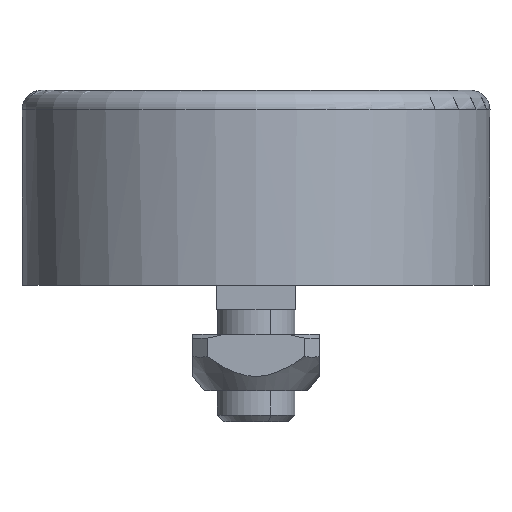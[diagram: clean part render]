
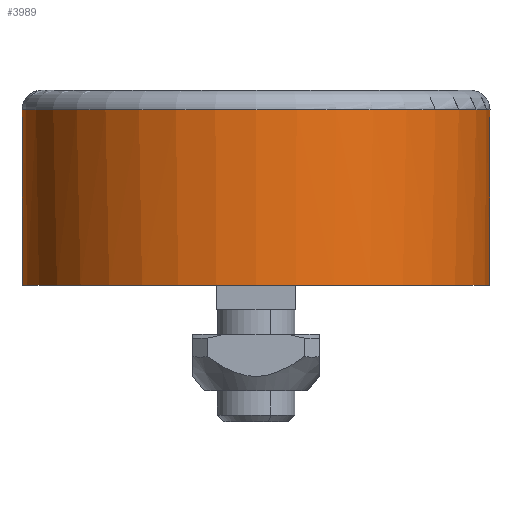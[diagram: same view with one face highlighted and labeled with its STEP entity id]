
A CAD part, left-side view. The second image highlights one B-rep face of the part: STEP entity #3989.
In plain terms, the highlighted cylindrical face has radius 24 mm (diameter 48 mm), a partial arc.
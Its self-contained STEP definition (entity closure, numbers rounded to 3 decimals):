
#55 = EDGE_CURVE ( 'NONE', #685, #5704, #1735, .T. ) ;
#518 = CARTESIAN_POINT ( 'NONE',  ( 32.95, 22.269, -2.013 ) ) ;
#595 = CARTESIAN_POINT ( 'NONE',  ( 24., 0., -5.5 ) ) ;
#685 = VERTEX_POINT ( 'NONE', #2453 ) ;
#806 = ORIENTED_EDGE ( 'NONE', *, *, #5219, .T. ) ;
#923 = ORIENTED_EDGE ( 'NONE', *, *, #3051, .T. ) ;
#996 = VERTEX_POINT ( 'NONE', #4268 ) ;
#1004 = DIRECTION ( 'NONE',  ( 1., 0., 0. ) ) ;
#1029 = CARTESIAN_POINT ( 'NONE',  ( 44.817, -11.944, 5. ) ) ;
#1031 = VERTEX_POINT ( 'NONE', #1431 ) ;
#1036 = EDGE_CURVE ( 'NONE', #996, #2831, #6209, .T. ) ;
#1050 = AXIS2_PLACEMENT_3D ( 'NONE', #3002, #5430, #1546 ) ;
#1129 = AXIS2_PLACEMENT_3D ( 'NONE', #6293, #2311, #1305 ) ;
#1218 =( BOUNDED_CURVE ( )  B_SPLINE_CURVE ( 3, ( #1029, #5492, #2998, #1539 ),
 .UNSPECIFIED., .F., .T. ) 
 B_SPLINE_CURVE_WITH_KNOTS ( ( 4, 4 ),
 ( 2.092, 2.759 ),
 .UNSPECIFIED. ) 
 CURVE ( )  GEOMETRIC_REPRESENTATION_ITEM ( )  RATIONAL_B_SPLINE_CURVE ( ( 1., 0.963, 0.963, 1. ) ) 
 REPRESENTATION_ITEM ( '' )  );
#1254 = ORIENTED_EDGE ( 'NONE', *, *, #55, .T. ) ;
#1305 = DIRECTION ( 'NONE',  ( 1., 0., 0. ) ) ;
#1331 = ORIENTED_EDGE ( 'NONE', *, *, #4120, .F. ) ;
#1431 = CARTESIAN_POINT ( 'NONE',  ( 26.994, 23.813, -13. ) ) ;
#1479 = CARTESIAN_POINT ( 'NONE',  ( 29., -23.496, -3.34 ) ) ;
#1539 = CARTESIAN_POINT ( 'NONE',  ( 32.95, -22.269, -2.013 ) ) ;
#1546 = DIRECTION ( 'NONE',  ( 1., 0., 0. ) ) ;
#1735 = B_SPLINE_CURVE_WITH_KNOTS ( 'NONE', 3,
 ( #3987, #2516, #1479, #4020, #2384, #3398 ),
 .UNSPECIFIED., .F., .F.,
 ( 4, 2, 4 ),
 ( 0., 0.003, 0.006 ),
 .UNSPECIFIED. ) ;
#1885 = B_SPLINE_CURVE_WITH_KNOTS ( 'NONE', 3,
 ( #518, #1940, #5977, #3907, #4431, #4913, #5390, #5464 ),
 .UNSPECIFIED., .F., .F.,
 ( 4, 2, 2, 4 ),
 ( 0., 0.003, 0.005, 0.007 ),
 .UNSPECIFIED. ) ;
#1940 = CARTESIAN_POINT ( 'NONE',  ( 31.968, 22.663, -2.281 ) ) ;
#2211 = VERTEX_POINT ( 'NONE', #3203 ) ;
#2221 = EDGE_LOOP ( 'NONE', ( #1331, #923, #1254, #3331, #4293, #2642, #4164, #806 ) ) ;
#2311 = DIRECTION ( 'NONE',  ( 0., 0., -1. ) ) ;
#2314 =( BOUNDED_CURVE ( )  B_SPLINE_CURVE ( 3, ( #3969, #4009, #2815, #2316 ),
 .UNSPECIFIED., .F., .T. ) 
 B_SPLINE_CURVE_WITH_KNOTS ( ( 4, 4 ),
 ( 3.524, 4.191 ),
 .UNSPECIFIED. ) 
 CURVE ( )  GEOMETRIC_REPRESENTATION_ITEM ( )  RATIONAL_B_SPLINE_CURVE ( ( 1., 0.963, 0.963, 1. ) ) 
 REPRESENTATION_ITEM ( '' )  );
#2316 = CARTESIAN_POINT ( 'NONE',  ( 44.817, 11.944, 5. ) ) ;
#2384 = CARTESIAN_POINT ( 'NONE',  ( 31.969, -22.663, -2.281 ) ) ;
#2440 = FACE_OUTER_BOUND ( 'NONE', #2221, .T. ) ;
#2453 = CARTESIAN_POINT ( 'NONE',  ( 26.994, -23.813, -4.131 ) ) ;
#2500 = DIRECTION ( 'NONE',  ( 0., 0., -1. ) ) ;
#2516 = CARTESIAN_POINT ( 'NONE',  ( 27.999, -23.686, -3.734 ) ) ;
#2642 = ORIENTED_EDGE ( 'NONE', *, *, #5196, .F. ) ;
#2809 = CIRCLE ( 'NONE', #1050, 24. ) ;
#2815 = CARTESIAN_POINT ( 'NONE',  ( 42.107, 16.666, 1.793 ) ) ;
#2831 = VERTEX_POINT ( 'NONE', #3476 ) ;
#2927 = CARTESIAN_POINT ( 'NONE',  ( 32.95, 22.269, -2.013 ) ) ;
#2998 = CARTESIAN_POINT ( 'NONE',  ( 38.001, -20.239, -0.634 ) ) ;
#3002 = CARTESIAN_POINT ( 'NONE',  ( 24., 0., -13. ) ) ;
#3051 = EDGE_CURVE ( 'NONE', #2211, #685, #6109, .T. ) ;
#3203 = CARTESIAN_POINT ( 'NONE',  ( 26.994, -23.813, -13. ) ) ;
#3258 = EDGE_CURVE ( 'NONE', #996, #5704, #1218, .T. ) ;
#3331 = ORIENTED_EDGE ( 'NONE', *, *, #3258, .F. ) ;
#3398 = CARTESIAN_POINT ( 'NONE',  ( 32.95, -22.269, -2.013 ) ) ;
#3427 = CYLINDRICAL_SURFACE ( 'NONE', #3942, 24. ) ;
#3476 = CARTESIAN_POINT ( 'NONE',  ( 44.817, 11.944, 5. ) ) ;
#3494 = VERTEX_POINT ( 'NONE', #2927 ) ;
#3907 = CARTESIAN_POINT ( 'NONE',  ( 29.497, 23.368, -3.158 ) ) ;
#3942 = AXIS2_PLACEMENT_3D ( 'NONE', #595, #5863, #1004 ) ;
#3969 = CARTESIAN_POINT ( 'NONE',  ( 32.95, 22.269, -2.013 ) ) ;
#3987 = CARTESIAN_POINT ( 'NONE',  ( 26.994, -23.813, -4.131 ) ) ;
#3989 = ADVANCED_FACE ( 'NONE', ( #2440 ), #3427, .T. ) ;
#4006 = EDGE_CURVE ( 'NONE', #3494, #4377, #1885, .T. ) ;
#4009 = CARTESIAN_POINT ( 'NONE',  ( 38.001, 20.239, -0.634 ) ) ;
#4020 = CARTESIAN_POINT ( 'NONE',  ( 30.986, -22.984, -2.614 ) ) ;
#4120 = EDGE_CURVE ( 'NONE', #2211, #1031, #2809, .T. ) ;
#4164 = ORIENTED_EDGE ( 'NONE', *, *, #4006, .T. ) ;
#4268 = CARTESIAN_POINT ( 'NONE',  ( 44.817, -11.944, 5. ) ) ;
#4293 = ORIENTED_EDGE ( 'NONE', *, *, #1036, .T. ) ;
#4301 = LINE ( 'NONE', #5794, #4511 ) ;
#4377 = VERTEX_POINT ( 'NONE', #4757 ) ;
#4431 = CARTESIAN_POINT ( 'NONE',  ( 28.998, 23.479, -3.348 ) ) ;
#4511 = VECTOR ( 'NONE', #2500, 1000. ) ;
#4757 = CARTESIAN_POINT ( 'NONE',  ( 26.994, 23.813, -4.131 ) ) ;
#4913 = CARTESIAN_POINT ( 'NONE',  ( 27.998, 23.67, -3.735 ) ) ;
#5151 = VECTOR ( 'NONE', #5534, 1000. ) ;
#5196 = EDGE_CURVE ( 'NONE', #3494, #2831, #2314, .T. ) ;
#5219 = EDGE_CURVE ( 'NONE', #4377, #1031, #4301, .T. ) ;
#5390 = CARTESIAN_POINT ( 'NONE',  ( 27.496, 23.749, -3.933 ) ) ;
#5430 = DIRECTION ( 'NONE',  ( 0., 0., -1. ) ) ;
#5464 = CARTESIAN_POINT ( 'NONE',  ( 26.994, 23.813, -4.131 ) ) ;
#5492 = CARTESIAN_POINT ( 'NONE',  ( 42.107, -16.666, 1.793 ) ) ;
#5534 = DIRECTION ( 'NONE',  ( 0., 0., 1. ) ) ;
#5604 = CARTESIAN_POINT ( 'NONE',  ( 26.994, -23.813, -5.5 ) ) ;
#5704 = VERTEX_POINT ( 'NONE', #6137 ) ;
#5794 = CARTESIAN_POINT ( 'NONE',  ( 26.994, 23.813, -5.5 ) ) ;
#5863 = DIRECTION ( 'NONE',  ( 0., 0., 1. ) ) ;
#5977 = CARTESIAN_POINT ( 'NONE',  ( 30.986, 22.984, -2.614 ) ) ;
#6109 = LINE ( 'NONE', #5604, #5151 ) ;
#6137 = CARTESIAN_POINT ( 'NONE',  ( 32.95, -22.269, -2.013 ) ) ;
#6209 = CIRCLE ( 'NONE', #1129, 24. ) ;
#6293 = CARTESIAN_POINT ( 'NONE',  ( 24., 0., 5. ) ) ;
